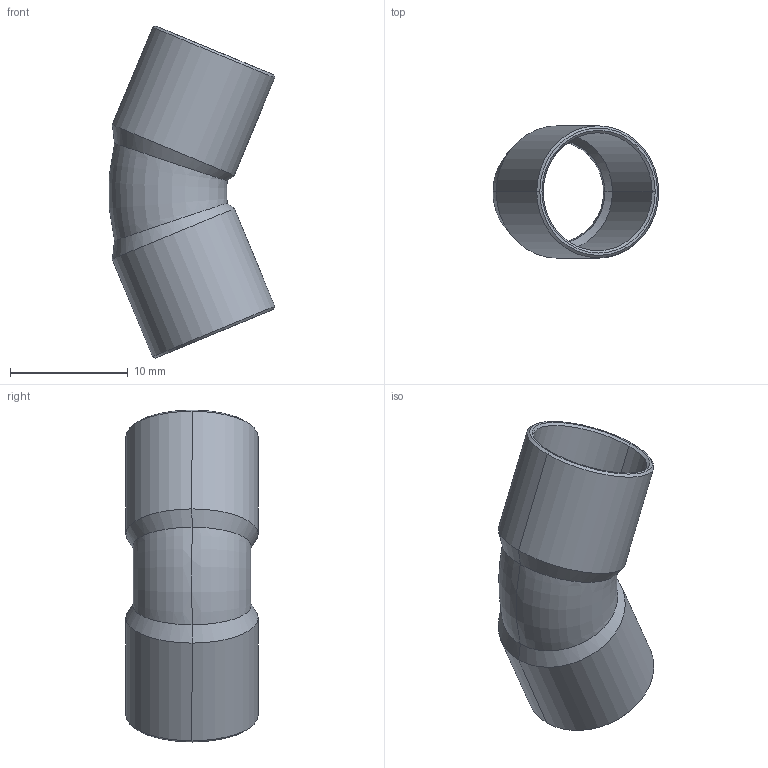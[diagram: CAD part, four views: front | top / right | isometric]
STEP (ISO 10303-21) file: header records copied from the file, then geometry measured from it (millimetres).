
FILE_DESCRIPTION((''),'2;1');
FILE_NAME('P:\Bouwmaten\z-maattekeningen 3D\5000\5040\1504110.stp','2005-10-12T14:11:25',('Kris'),(''),'Autodesk Inventor 8','Autodesk Inventor 8','');
FILE_SCHEMA(('AUTOMOTIVE_DESIGN { 1 0 10303 214 1 1 1 1 }'));
Length unit declared in the file: millimetre
Products named in the file (1): 1504110
Bounding box: 14.03 x 11.2 x 28.15 mm (x, y, z)
Volume: 498 mm3; surface area: 1693.1 mm2
Topology: 1 solids, 1 shells, 30 faces, 60 edges, 32 vertices
Faces by surface type: cone 12, bspline 9, torus 4, cylinder 4, plane 1
Entity records: 1027 total; most frequent: CARTESIAN_POINT 414, DIRECTION 124, ORIENTED_EDGE 120, EDGE_CURVE 60, AXIS2_PLACEMENT_3D 50, VERTEX_POINT 32, EDGE_LOOP 32, FACE_OUTER_BOUND 30
